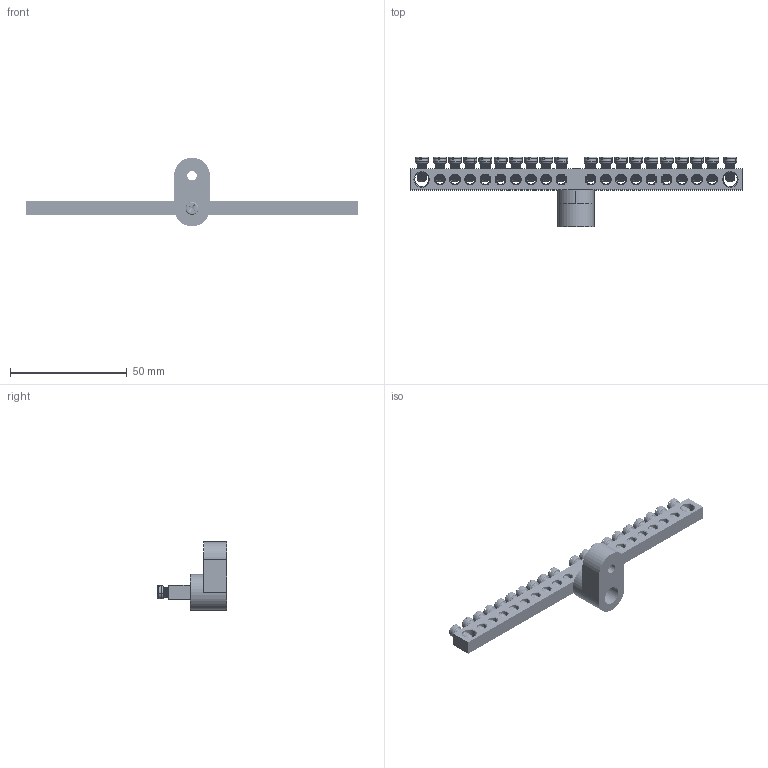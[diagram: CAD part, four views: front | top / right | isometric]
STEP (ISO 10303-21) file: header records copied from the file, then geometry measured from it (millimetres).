
FILE_DESCRIPTION (( 'STEP AP214' ), '1' );
FILE_NAME ('277936 Optikit BB-O-N-S-20-6õ9-ñèíèé.STEP', '2020-02-06T13:02:33', ( '' ), ( '' ), 'SwSTEP 2.0', 'SolidWorks 2018', '' );
FILE_SCHEMA (( 'AUTOMOTIVE_DESIGN' ));
Length unit declared in the file: millimetre
Products named in the file (5): 277936 Optikit BB-O-N-S-20-6õ9-ñèíèé; DIN èçîëÿòîð 2; Øèíà íóëåâàÿ ñ êðåïåæíûì îòâåðñòèåì ïî öåíòðó 6õ9 20-1_1; Âèíò ì4; Øèíà 6õ9 20 1
Assembly tree (24 placements, depth 3):
  277936 Optikit BB-O-N-S-20-6õ9-ñèíèé
    Øèíà íóëåâàÿ ñ êðåïåæíûì îòâåðñòèåì ïî öåíòðó 6õ9 20-1_1
      Øèíà 6õ9 20 1
      Âèíò ì4  x20
    DIN èçîëÿòîð 2
    Âèíò ì4
Bounding box: 142 x 29.9 x 29.4 mm (x, y, z)
Volume: 12635 mm3; surface area: 12614.8 mm2
Topology: 23 solids, 23 shells, 1653 faces, 4591 edges, 2964 vertices
Faces by surface type: plane 579, cylinder 574, cone 269, torus 147, bspline 84
Entity records: 11535 total; most frequent: CARTESIAN_POINT 4551, DIRECTION 1338, ORIENTED_EDGE 1298, EDGE_CURVE 649, AXIS2_PLACEMENT_3D 538, VERTEX_POINT 404, EDGE_LOOP 341, VECTOR 262
